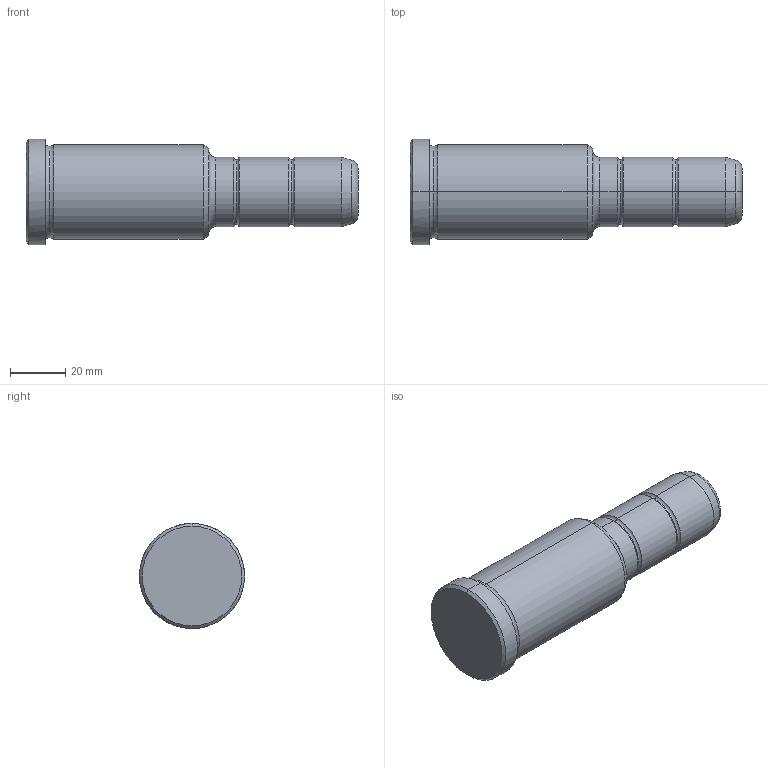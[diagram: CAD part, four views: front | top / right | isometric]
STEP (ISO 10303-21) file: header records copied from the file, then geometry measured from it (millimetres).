
FILE_DESCRIPTION(('CATIA V5 STEP Exchange'),'2;1');
FILE_NAME('C:\Users\Utente\Desktop\IO LAVORO\3D X SITO CF\X SITO\PLASTICA\351\351-25X66X120.stp','2021-09-07T10:11:21+00:00',('none'),('none'),'CATIA Version 5 Release 20 GA (IN-10)','CATIA V5 STEP AP203','none');
FILE_SCHEMA(('CONFIG_CONTROL_DESIGN'));
Length unit declared in the file: millimetre
Products named in the file (1): 351-25X66X120
Bounding box: 120 x 38 x 38 mm (x, y, z)
Volume: 87224.2 mm3; surface area: 13337.1 mm2
Topology: 1 solids, 1 shells, 36 faces, 102 edges, 70 vertices
Faces by surface type: torus 16, cylinder 10, cone 6, plane 4
Entity records: 1292 total; most frequent: CARTESIAN_POINT 321, ORIENTED_EDGE 204, DIRECTION 166, AXIS2_PLACEMENT_3D 115, EDGE_CURVE 102, CIRCLE 78, VERTEX_POINT 70, EDGE_LOOP 38
